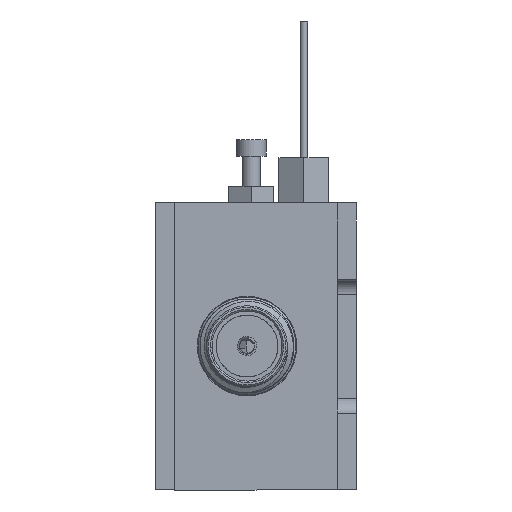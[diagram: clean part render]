
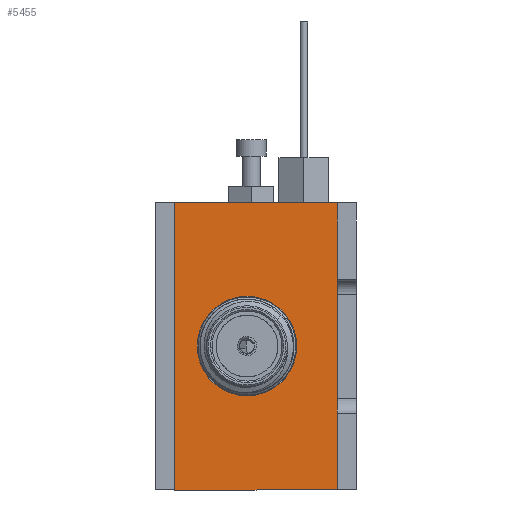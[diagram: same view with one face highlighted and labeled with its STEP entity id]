
A CAD part, left-side view. The second image highlights one B-rep face of the part: STEP entity #5455.
In plain terms, the highlighted planar face has unit normal (-1, 0, 0).
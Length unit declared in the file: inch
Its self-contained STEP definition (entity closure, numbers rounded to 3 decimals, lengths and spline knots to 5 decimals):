
#139 = VECTOR ( 'NONE', #2236, 39.37008 ) ;
#257 = VECTOR ( 'NONE', #8742, 39.37008 ) ;
#590 = AXIS2_PLACEMENT_3D ( 'NONE', #4763, #1752, #4806 ) ;
#612 = CARTESIAN_POINT ( 'NONE',  ( -2.55058, 0.33695, 1.17463 ) ) ;
#746 = LINE ( 'NONE', #6143, #139 ) ;
#1090 = AXIS2_PLACEMENT_3D ( 'NONE', #5780, #7919, #7359 ) ;
#1095 = EDGE_CURVE ( 'NONE', #8599, #6515, #4285, .T. ) ;
#1171 = ORIENTED_EDGE ( 'NONE', *, *, #1095, .T. ) ;
#1220 = EDGE_CURVE ( 'NONE', #9194, #6663, #5723, .T. ) ;
#1314 = CARTESIAN_POINT ( 'NONE',  ( -2.55058, 0.33695, 0.42463 ) ) ;
#1752 = DIRECTION ( 'NONE',  ( -1., 0., 0. ) ) ;
#2075 = FACE_BOUND ( 'NONE', #2773, .T. ) ;
#2154 = CARTESIAN_POINT ( 'NONE',  ( -2.55058, -0.08805, 0.42463 ) ) ;
#2222 = CARTESIAN_POINT ( 'NONE',  ( -2.55058, 0.14797, 0.6707 ) ) ;
#2236 = DIRECTION ( 'NONE',  ( 0., 0., 1. ) ) ;
#2257 = EDGE_CURVE ( 'NONE', #6515, #6663, #5867, .T. ) ;
#2305 = ORIENTED_EDGE ( 'NONE', *, *, #2257, .T. ) ;
#2506 = EDGE_CURVE ( 'NONE', #7580, #9228, #8654, .T. ) ;
#2773 = EDGE_LOOP ( 'NONE', ( #7139, #8620 ) ) ;
#2945 = ORIENTED_EDGE ( 'NONE', *, *, #1220, .F. ) ;
#3406 = PLANE ( 'NONE',  #1090 ) ;
#3407 = DIRECTION ( 'NONE',  ( 0., 0., 1. ) ) ;
#3913 = CARTESIAN_POINT ( 'NONE',  ( -2.55058, 0.14797, 0.93054 ) ) ;
#3983 = CARTESIAN_POINT ( 'NONE',  ( -2.55058, 0.14797, 0.80062 ) ) ;
#4178 = EDGE_CURVE ( 'NONE', #9228, #7580, #4851, .T. ) ;
#4285 = LINE ( 'NONE', #1314, #8388 ) ;
#4373 = CARTESIAN_POINT ( 'NONE',  ( -2.55058, 0.33695, 0.42463 ) ) ;
#4525 = EDGE_CURVE ( 'NONE', #8599, #9194, #746, .T. ) ;
#4763 = CARTESIAN_POINT ( 'NONE',  ( -2.55058, 0.14797, 0.80062 ) ) ;
#4806 = DIRECTION ( 'NONE',  ( 0., 0., 1. ) ) ;
#4851 = CIRCLE ( 'NONE', #590, 0.12992 ) ;
#5266 = ORIENTED_EDGE ( 'NONE', *, *, #4525, .F. ) ;
#5455 = ADVANCED_FACE ( 'NONE', ( #2075, #8854 ), #3406, .F. ) ;
#5653 = VECTOR ( 'NONE', #3407, 39.37008 ) ;
#5723 = LINE ( 'NONE', #6556, #257 ) ;
#5780 = CARTESIAN_POINT ( 'NONE',  ( -2.55058, -0.08805, 0.62463 ) ) ;
#5867 = LINE ( 'NONE', #2154, #5653 ) ;
#6143 = CARTESIAN_POINT ( 'NONE',  ( -2.55058, 0.33695, 0.42463 ) ) ;
#6216 = DIRECTION ( 'NONE',  ( 0., 0., 1. ) ) ;
#6286 = EDGE_LOOP ( 'NONE', ( #1171, #2305, #2945, #5266 ) ) ;
#6515 = VERTEX_POINT ( 'NONE', #6644 ) ;
#6556 = CARTESIAN_POINT ( 'NONE',  ( -2.55058, 0.33695, 1.17463 ) ) ;
#6644 = CARTESIAN_POINT ( 'NONE',  ( -2.55058, -0.08805, 0.42463 ) ) ;
#6663 = VERTEX_POINT ( 'NONE', #9063 ) ;
#7006 = DIRECTION ( 'NONE',  ( -1., 0., 0. ) ) ;
#7139 = ORIENTED_EDGE ( 'NONE', *, *, #4178, .F. ) ;
#7359 = DIRECTION ( 'NONE',  ( 0., 0., -1. ) ) ;
#7580 = VERTEX_POINT ( 'NONE', #2222 ) ;
#7919 = DIRECTION ( 'NONE',  ( 1., 0., 0. ) ) ;
#8388 = VECTOR ( 'NONE', #9477, 39.37008 ) ;
#8599 = VERTEX_POINT ( 'NONE', #4373 ) ;
#8620 = ORIENTED_EDGE ( 'NONE', *, *, #2506, .F. ) ;
#8654 = CIRCLE ( 'NONE', #9753, 0.12992 ) ;
#8742 = DIRECTION ( 'NONE',  ( 0., -1., 0. ) ) ;
#8854 = FACE_OUTER_BOUND ( 'NONE', #6286, .T. ) ;
#9063 = CARTESIAN_POINT ( 'NONE',  ( -2.55058, -0.08805, 1.17463 ) ) ;
#9194 = VERTEX_POINT ( 'NONE', #612 ) ;
#9228 = VERTEX_POINT ( 'NONE', #3913 ) ;
#9477 = DIRECTION ( 'NONE',  ( 0., -1., 0. ) ) ;
#9753 = AXIS2_PLACEMENT_3D ( 'NONE', #3983, #7006, #6216 ) ;
